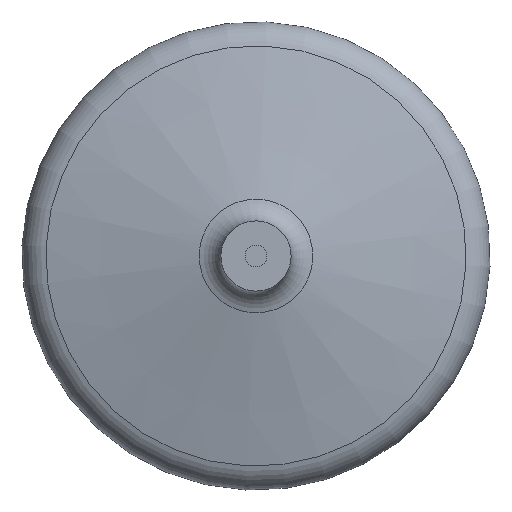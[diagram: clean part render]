
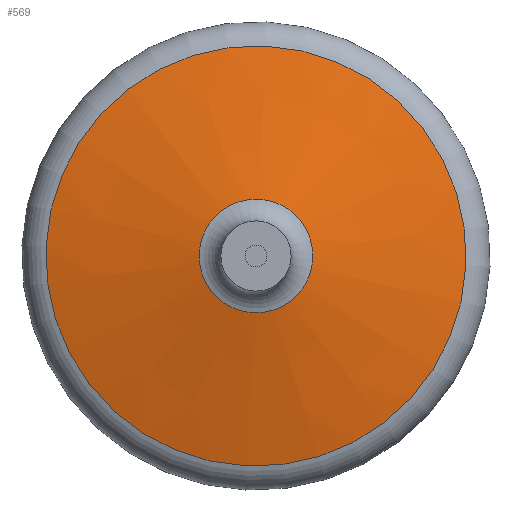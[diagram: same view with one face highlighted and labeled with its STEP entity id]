
A CAD part, front view. The second image highlights one B-rep face of the part: STEP entity #569.
In plain terms, the highlighted conical face has half-angle 76.848 degrees and reference radius 90.001 mm.
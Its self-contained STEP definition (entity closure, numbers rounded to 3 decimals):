
#45=LINE('',#1039,#59);
#59=VECTOR('',#811,90.);
#72=CONICAL_SURFACE('',#672,90.,1.341);
#83=FACE_OUTER_BOUND('',#113,.T.);
#113=EDGE_LOOP('',(#399,#400,#401,#402,#403,#404,#405));
#154=CIRCLE('',#669,36.405);
#155=CIRCLE('',#670,36.405);
#157=CIRCLE('',#673,134.551);
#158=CIRCLE('',#674,134.551);
#159=CIRCLE('',#675,134.551);
#229=VERTEX_POINT('',#1027);
#230=VERTEX_POINT('',#1029);
#231=VERTEX_POINT('',#1034);
#232=VERTEX_POINT('',#1035);
#233=VERTEX_POINT('',#1037);
#298=EDGE_CURVE('',#229,#230,#154,.T.);
#299=EDGE_CURVE('',#230,#229,#155,.T.);
#301=EDGE_CURVE('',#231,#232,#157,.T.);
#302=EDGE_CURVE('',#233,#231,#158,.T.);
#303=EDGE_CURVE('',#233,#230,#45,.T.);
#304=EDGE_CURVE('',#232,#233,#159,.T.);
#399=ORIENTED_EDGE('',*,*,#301,.F.);
#400=ORIENTED_EDGE('',*,*,#302,.F.);
#401=ORIENTED_EDGE('',*,*,#303,.T.);
#402=ORIENTED_EDGE('',*,*,#298,.F.);
#403=ORIENTED_EDGE('',*,*,#299,.F.);
#404=ORIENTED_EDGE('',*,*,#303,.F.);
#405=ORIENTED_EDGE('',*,*,#304,.F.);
#569=ADVANCED_FACE('',(#83),#72,.T.);
#669=AXIS2_PLACEMENT_3D('',#1030,#799,#800);
#670=AXIS2_PLACEMENT_3D('',#1031,#801,#802);
#672=AXIS2_PLACEMENT_3D('',#1033,#805,#806);
#673=AXIS2_PLACEMENT_3D('',#1036,#807,#808);
#674=AXIS2_PLACEMENT_3D('',#1038,#809,#810);
#675=AXIS2_PLACEMENT_3D('',#1040,#812,#813);
#799=DIRECTION('center_axis',(0.,1.,0.));
#800=DIRECTION('ref_axis',(1.,0.,0.));
#801=DIRECTION('center_axis',(0.,1.,0.));
#802=DIRECTION('ref_axis',(1.,0.,0.));
#805=DIRECTION('center_axis',(0.,-1.,0.));
#806=DIRECTION('ref_axis',(1.,0.,0.));
#807=DIRECTION('center_axis',(0.,-1.,0.));
#808=DIRECTION('ref_axis',(1.,0.,0.));
#809=DIRECTION('center_axis',(0.,-1.,0.));
#810=DIRECTION('ref_axis',(1.,0.,0.));
#811=DIRECTION('',(0.974,0.228,0.));
#812=DIRECTION('center_axis',(0.,-1.,0.));
#813=DIRECTION('ref_axis',(1.,0.,0.));
#1027=CARTESIAN_POINT('',(0.,391.998,-36.405));
#1029=CARTESIAN_POINT('',(-36.405,391.998,0.));
#1030=CARTESIAN_POINT('Origin',(0.,391.998,0.));
#1031=CARTESIAN_POINT('Origin',(0.,391.998,0.));
#1033=CARTESIAN_POINT('Origin',(0.,379.475,0.));
#1034=CARTESIAN_POINT('',(134.551,369.066,0.));
#1035=CARTESIAN_POINT('',(0.,369.066,134.551));
#1036=CARTESIAN_POINT('Origin',(0.,369.066,0.));
#1037=CARTESIAN_POINT('',(-134.551,369.066,0.));
#1038=CARTESIAN_POINT('Origin',(0.,369.066,0.));
#1039=CARTESIAN_POINT('',(-90.,379.475,0.));
#1040=CARTESIAN_POINT('Origin',(0.,369.066,0.));
